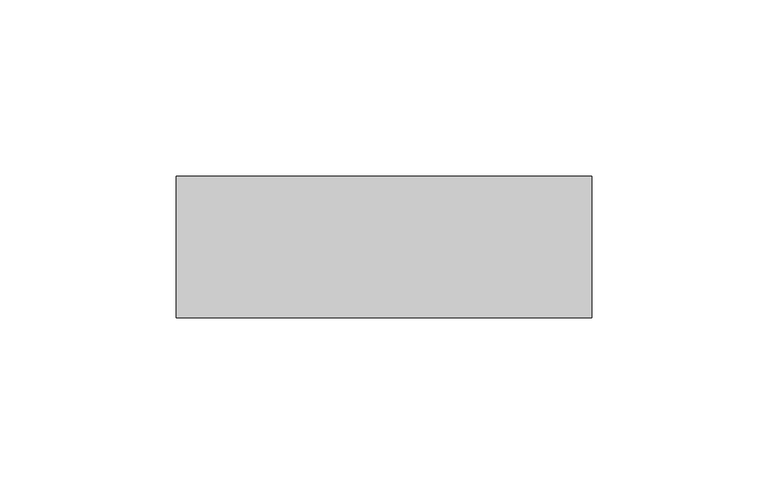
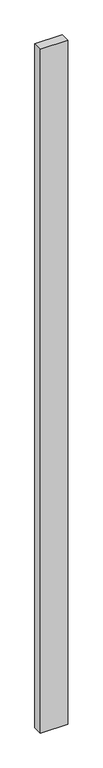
"""IFC4 building model written with IfcOpenShell, lengths in millimetres: plate geometry, Vitré."""

from ifc_helpers import new_model, si_unit, origin, origin_with_axes, place, context, project, spatial, polyline, outline, extrude, source, transform, mapped, element, save


def plate_19e6b0dc(model_context):
    return source(origin(), model_context, "Body", "SweptSolid", [
        extrude(outline(polyline([(-58.8125, -20.0), (-58.8125, 20.0), (58.8125, 20.0), (58.8125, -20.0), (-58.8125, -20.0)])), origin_with_axes(), (0.0, 0.0, 1.0), 3112.7110145),
    ])


if __name__ == "__main__":
    model = new_model("IFC4")
    model_context = context("Model", 3, world=origin())
    ifc_project = project(units=[si_unit("LENGTHUNIT", "METRE", prefix="MILLI")], contexts=[model_context])
    site = spatial("IfcSite", under=ifc_project)
    building = spatial("IfcBuilding", under=site)
    placement = place(None, origin())
    plate_shape = plate_19e6b0dc(model_context)
    element("IfcPlate", 1, ObjectType="Vitré", at=placement, inside=building, context=model_context, shape_type="MappedRepresentation", body=[
        mapped(plate_shape, transform((0.0, 0.0, 0.0), x_axis=(1.0, 0.0, 0.0), y_axis=(0.0, 1.0, 0.0), z_axis=(0.0, 0.0, 1.0))),
    ])
    save(model, "model.ifc")
